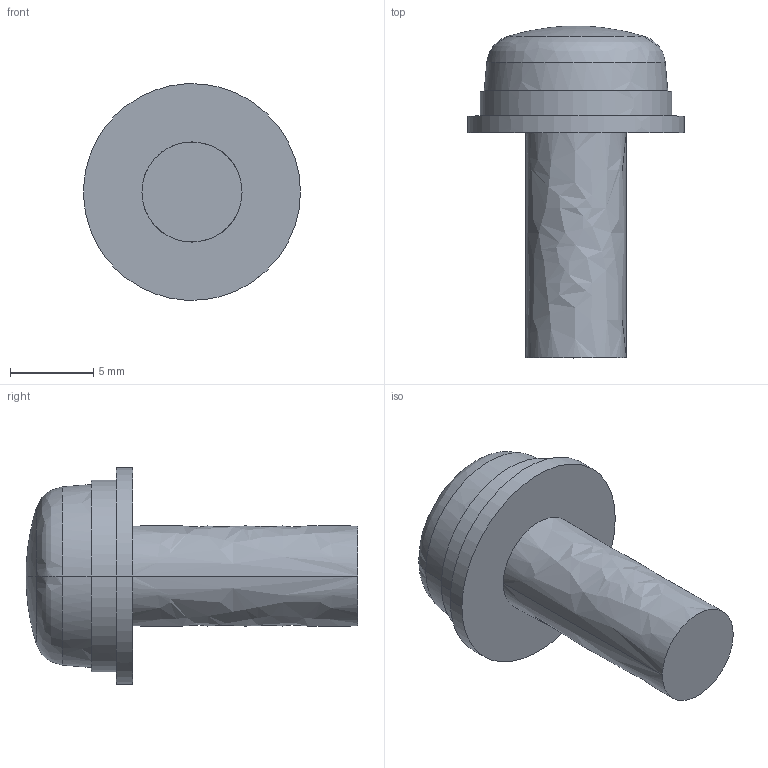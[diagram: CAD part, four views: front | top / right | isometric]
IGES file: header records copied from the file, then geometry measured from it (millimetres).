
Start section:  PTC IGES file: sw-pw-p-na-m6x16.igs
Global section: file name: sw-pw-p-na-m6x16.igs; native system: Pro/ENGINEER by Parametric Technology Corporation; preprocessor: 2006420; author: JE18792; organization: Unknown; date: 20101129.152228; units: millimetre
Bounding box: 13 x 19.9 x 12.98 mm (x, y, z)
Volume: 967.9 mm3; surface area: 697.6 mm2
Topology: 1 solids, 1 shells, 16 faces, 32 edges, 19 vertices
Faces by surface type: bspline 16
